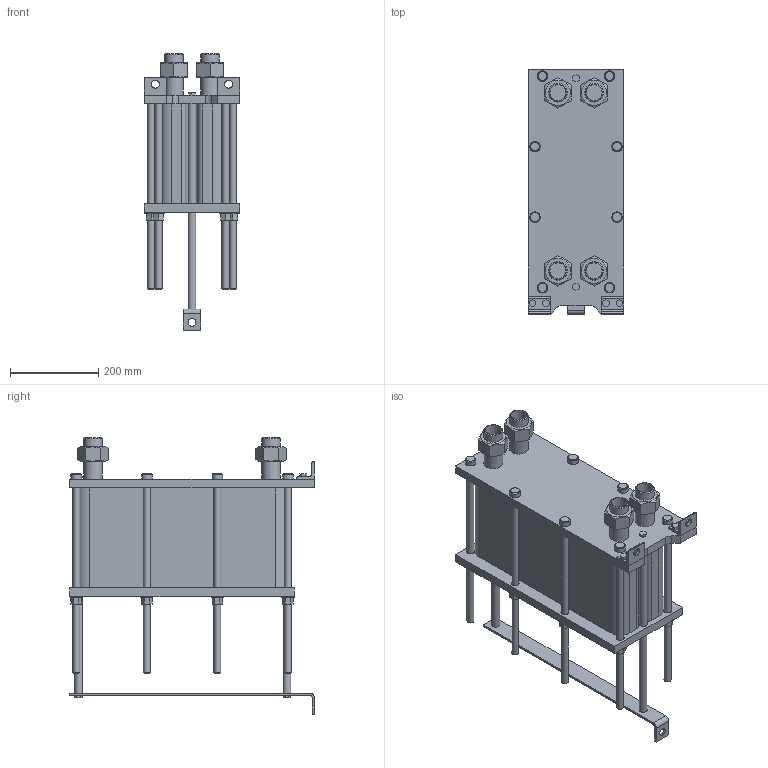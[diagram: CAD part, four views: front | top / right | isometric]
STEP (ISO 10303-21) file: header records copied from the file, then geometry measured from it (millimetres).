
FILE_DESCRIPTION(/* description */ (''),/* implementation_level */ '2;1');
FILE_NAME(/* name */ 'C:\Users\zhuro\Desktop\ENCO\TO\ЭН-004\ЭН-0,5-004-73-1.stp',/* time_stamp */ '2022-06-06T10:49:25+03:00',/* author */ ('zhuro'),/* organization */ (''),/* preprocessor_version */ 'ST-DEVELOPER v18.1',/* originating_system */ 'Autodesk Inventor 2022',/* authorisation */ '');
FILE_SCHEMA (('AUTOMOTIVE_DESIGN { 1 0 10303 214 3 1 1 }'));
Length unit declared in the file: millimetre
Products named in the file (1): ЭН-0,5-004-73-1
Bounding box: 216 x 555 x 627.4 mm (x, y, z)
Volume: 22631379.1 mm3; surface area: 1448827.1 mm2
Topology: 40 solids, 40 shells, 403 faces, 865 edges, 574 vertices
Faces by surface type: plane 272, cylinder 103, cone 28
Full cylindrical faces by diameter (mm): 10 x4, 16 x16, 18 x29, 20 x2, 24 x8, 28 x8, 36.3 x5, 42.3 x9
Entity records: 11137 total; most frequent: CARTESIAN_POINT 1939, DIRECTION 1879, ORIENTED_EDGE 1730, EDGE_CURVE 865, AXIS2_PLACEMENT_3D 658, VERTEX_POINT 574, LINE 563, VECTOR 563
